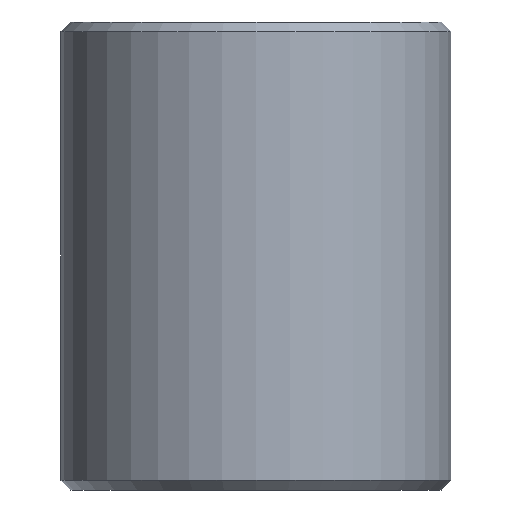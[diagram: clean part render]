
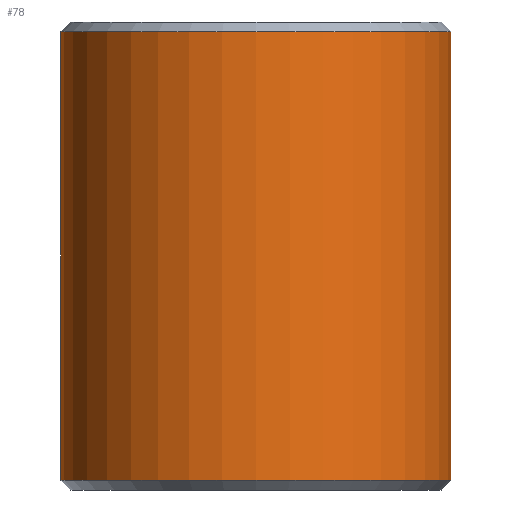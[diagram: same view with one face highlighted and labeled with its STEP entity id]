
A CAD part, front view. The second image highlights one B-rep face of the part: STEP entity #78.
In plain terms, the highlighted cylindrical face has radius 10 mm (diameter 20 mm), a full revolution.
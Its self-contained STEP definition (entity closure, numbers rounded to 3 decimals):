
#78=ADVANCED_FACE('',(#91,#92),#93,.T.);
#91=FACE_OUTER_BOUND('',#109,.T.);
#92=FACE_OUTER_BOUND('',#110,.T.);
#93=CYLINDRICAL_SURFACE('',#111,10.0);
#109=EDGE_LOOP('',(#133));
#110=EDGE_LOOP('',(#134));
#111=AXIS2_PLACEMENT_3D('',#135,#136,#137);
#133=ORIENTED_EDGE('',*,*,#152,.T.);
#134=ORIENTED_EDGE('',*,*,#153,.T.);
#135=CARTESIAN_POINT('',(0.,0.0,12.0));
#136=DIRECTION('',(-0.0,-0.0,1.0));
#137=DIRECTION('',(-1.0,0.0,0.0));
#152=EDGE_CURVE('',#162,#162,#163,.F.);
#153=EDGE_CURVE('',#164,#164,#165,.T.);
#162=VERTEX_POINT('',#174);
#163=CIRCLE('',#175,10.0);
#164=VERTEX_POINT('',#176);
#165=CIRCLE('',#177,10.0);
#174=CARTESIAN_POINT('',(10.0,0.,11.5));
#175=AXIS2_PLACEMENT_3D('',#190,#191,#192);
#176=CARTESIAN_POINT('',(10.0,0.0,-11.5));
#177=AXIS2_PLACEMENT_3D('',#193,#194,#195);
#190=CARTESIAN_POINT('',(0.,0.0,11.5));
#191=DIRECTION('',(0.0,0.0,1.0));
#192=DIRECTION('',(1.0,0.0,0.0));
#193=CARTESIAN_POINT('',(0.,0.0,-11.5));
#194=DIRECTION('',(0.0,0.0,1.0));
#195=DIRECTION('',(1.0,0.0,0.0));
